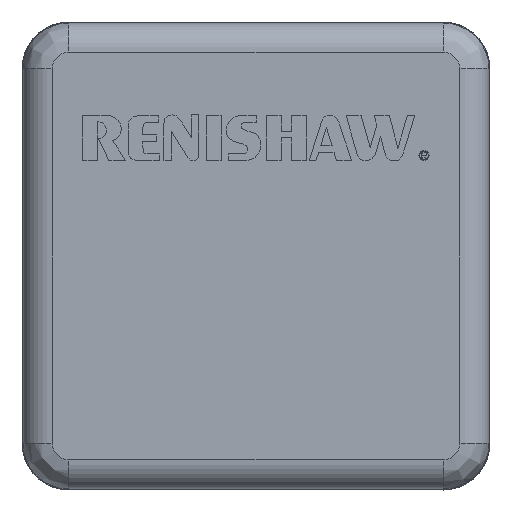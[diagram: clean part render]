
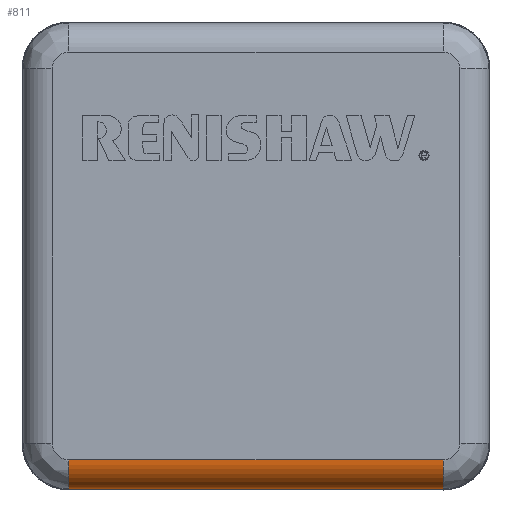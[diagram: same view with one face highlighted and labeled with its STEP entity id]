
A CAD part, front view. The second image highlights one B-rep face of the part: STEP entity #811.
In plain terms, the highlighted cylindrical face has radius 2.5 mm (diameter 5 mm), a partial arc.
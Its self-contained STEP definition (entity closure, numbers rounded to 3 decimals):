
#576=CYLINDRICAL_SURFACE('',#2470,2.5);
#811=ADVANCED_FACE('',(#938),#576,.T.);
#938=FACE_OUTER_BOUND('',#1038,.T.);
#1038=EDGE_LOOP('',(#1549,#1550,#1551,#1552));
#1093=CIRCLE('',#2467,2.5);
#1095=CIRCLE('',#2469,2.5);
#1549=ORIENTED_EDGE('',*,*,#2181,.T.);
#1550=ORIENTED_EDGE('',*,*,#2183,.F.);
#1551=ORIENTED_EDGE('',*,*,#2184,.F.);
#1552=ORIENTED_EDGE('',*,*,#2185,.F.);
#1907=VERTEX_POINT('',#4478);
#1908=VERTEX_POINT('',#4480);
#1909=VERTEX_POINT('',#4499);
#1910=VERTEX_POINT('',#4501);
#2181=EDGE_CURVE('',#1908,#1907,#1093,.T.);
#2183=EDGE_CURVE('',#1909,#1907,#2278,.T.);
#2184=EDGE_CURVE('',#1910,#1909,#1095,.T.);
#2185=EDGE_CURVE('',#1908,#1910,#2279,.T.);
#2278=LINE('',#4498,#2361);
#2279=LINE('',#4502,#2362);
#2361=VECTOR('',#2745,1.);
#2362=VECTOR('',#2748,1.);
#2467=AXIS2_PLACEMENT_3D('',#4479,#2741,#2742);
#2469=AXIS2_PLACEMENT_3D('',#4500,#2746,#2747);
#2470=AXIS2_PLACEMENT_3D('',#4503,#2749,#2750);
#2741=DIRECTION('',(1.,0.,0.));
#2742=DIRECTION('',(0.,-1.,0.));
#2745=DIRECTION('',(-1.,0.,0.));
#2746=DIRECTION('',(1.,0.,0.));
#2747=DIRECTION('',(0.,-1.,0.));
#2748=DIRECTION('',(1.,0.,0.));
#2749=DIRECTION('',(-1.,0.,0.));
#2750=DIRECTION('',(0.,1.,0.));
#4478=CARTESIAN_POINT('',(4.,-1.631,-39.915));
#4479=CARTESIAN_POINT('',(4.,-1.5,-37.418));
#4480=CARTESIAN_POINT('',(4.,-4.,-37.418));
#4498=CARTESIAN_POINT('',(20.,-1.631,-39.915));
#4499=CARTESIAN_POINT('',(36.,-1.631,-39.915));
#4500=CARTESIAN_POINT('',(36.,-1.5,-37.418));
#4501=CARTESIAN_POINT('',(36.,-4.,-37.418));
#4502=CARTESIAN_POINT('',(20.,-4.,-37.418));
#4503=CARTESIAN_POINT('',(20.,-1.5,-37.418));
